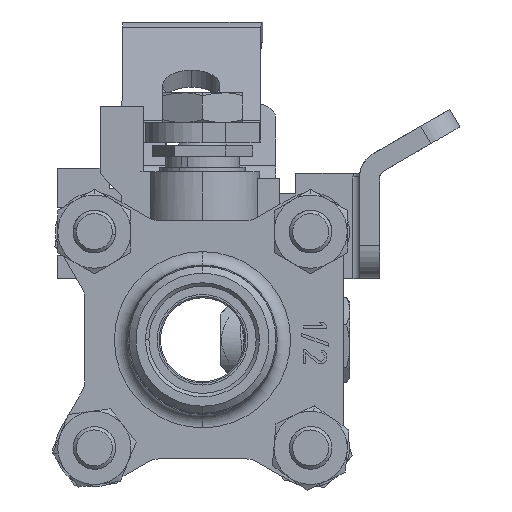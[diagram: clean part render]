
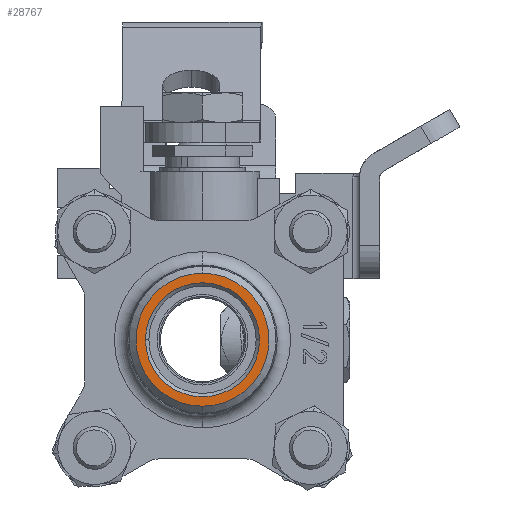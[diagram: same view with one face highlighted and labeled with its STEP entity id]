
A CAD part, left-side view. The second image highlights one B-rep face of the part: STEP entity #28767.
In plain terms, the highlighted planar face has unit normal (-1, 0, 0).
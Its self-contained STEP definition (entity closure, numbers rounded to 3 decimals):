
#21450 = CONICAL_SURFACE('',#21451,8.49,0.785);
#21451 = AXIS2_PLACEMENT_3D('',#21452,#21453,#21454);
#21452 = CARTESIAN_POINT('',(20.379,16.421,
    -20.008));
#21453 = DIRECTION('',(-1.,0.,0.));
#21454 = DIRECTION('',(0.,1.,0.));
#21549 = CONICAL_SURFACE('',#21550,8.49,0.785);
#21550 = AXIS2_PLACEMENT_3D('',#21551,#21552,#21553);
#21551 = CARTESIAN_POINT('',(20.379,16.421,
    -20.008));
#21552 = DIRECTION('',(-1.,0.,0.));
#21553 = DIRECTION('',(0.,1.,0.));
#21586 = VERTEX_POINT('',#21587);
#21587 = CARTESIAN_POINT('',(20.379,24.911,
    -20.008));
#21606 = EDGE_CURVE('',#21586,#21607,#21609,.T.);
#21607 = VERTEX_POINT('',#21608);
#21608 = CARTESIAN_POINT('',(20.379,7.931,
    -20.008));
#21609 = SURFACE_CURVE('',#21610,(#21615,#21621),.PCURVE_S1.);
#21610 = CIRCLE('',#21611,8.49);
#21611 = AXIS2_PLACEMENT_3D('',#21612,#21613,#21614);
#21612 = CARTESIAN_POINT('',(20.379,16.421,
    -20.008));
#21613 = DIRECTION('',(1.,0.,0.));
#21614 = DIRECTION('',(0.,1.,0.));
#21615 = PCURVE('',#21450,#21616);
#21616 = DEFINITIONAL_REPRESENTATION('',(#21617),#21620);
#21617 = B_SPLINE_CURVE_WITH_KNOTS('',1,(#21618,#21619),.UNSPECIFIED.,
  .F.,.F.,(2,2),(0.,3.142),.PIECEWISE_BEZIER_KNOTS.);
#21618 = CARTESIAN_POINT('',(6.283,0.));
#21619 = CARTESIAN_POINT('',(3.142,0.));
#21620 = ( GEOMETRIC_REPRESENTATION_CONTEXT(2) 
PARAMETRIC_REPRESENTATION_CONTEXT() REPRESENTATION_CONTEXT('2D SPACE',''
  ) );
#21621 = PCURVE('',#21622,#21627);
#21622 = PLANE('',#21623);
#21623 = AXIS2_PLACEMENT_3D('',#21624,#21625,#21626);
#21624 = CARTESIAN_POINT('',(20.379,16.421,
    -20.008));
#21625 = DIRECTION('',(-1.,0.,0.));
#21626 = DIRECTION('',(-0.,0.,-1.));
#21627 = DEFINITIONAL_REPRESENTATION('',(#21628),#21636);
#21628 = ( BOUNDED_CURVE() B_SPLINE_CURVE(2,(#21629,#21630,#21631,#21632
    ,#21633,#21634,#21635),.UNSPECIFIED.,.T.,.F.) 
B_SPLINE_CURVE_WITH_KNOTS((1,2,2,2,2,1),(-2.094,0.,
    2.094,4.189,6.283,8.378),
.UNSPECIFIED.) CURVE() GEOMETRIC_REPRESENTATION_ITEM() 
RATIONAL_B_SPLINE_CURVE((1.,0.5,1.,0.5,1.,0.5,1.)) REPRESENTATION_ITEM(
  '') );
#21629 = CARTESIAN_POINT('',(0.,-8.49));
#21630 = CARTESIAN_POINT('',(-14.705,-8.49));
#21631 = CARTESIAN_POINT('',(-7.353,4.245));
#21632 = CARTESIAN_POINT('',(0.,16.98));
#21633 = CARTESIAN_POINT('',(7.353,4.245));
#21634 = CARTESIAN_POINT('',(14.705,-8.49));
#21635 = CARTESIAN_POINT('',(0.,-8.49));
#21636 = ( GEOMETRIC_REPRESENTATION_CONTEXT(2) 
PARAMETRIC_REPRESENTATION_CONTEXT() REPRESENTATION_CONTEXT('2D SPACE',''
  ) );
#21661 = EDGE_CURVE('',#21662,#21664,#21666,.T.);
#21662 = VERTEX_POINT('',#21663);
#21663 = CARTESIAN_POINT('',(20.379,16.421,
    -29.908));
#21664 = VERTEX_POINT('',#21665);
#21665 = CARTESIAN_POINT('',(20.379,16.421,
    -10.108));
#21666 = SURFACE_CURVE('',#21667,(#21672,#21683),.PCURVE_S1.);
#21667 = CIRCLE('',#21668,9.9);
#21668 = AXIS2_PLACEMENT_3D('',#21669,#21670,#21671);
#21669 = CARTESIAN_POINT('',(20.379,16.421,
    -20.008));
#21670 = DIRECTION('',(-1.,0.,0.));
#21671 = DIRECTION('',(0.,0.,1.));
#21672 = PCURVE('',#21673,#21678);
#21673 = CONICAL_SURFACE('',#21674,10.935,0.803);
#21674 = AXIS2_PLACEMENT_3D('',#21675,#21676,#21677);
#21675 = CARTESIAN_POINT('',(21.378,16.421,
    -20.008));
#21676 = DIRECTION('',(1.,0.,0.));
#21677 = DIRECTION('',(0.,0.,1.));
#21678 = DEFINITIONAL_REPRESENTATION('',(#21679),#21682);
#21679 = B_SPLINE_CURVE_WITH_KNOTS('',1,(#21680,#21681),.UNSPECIFIED.,
  .F.,.F.,(2,2),(3.142,6.283),.PIECEWISE_BEZIER_KNOTS.);
#21680 = CARTESIAN_POINT('',(3.142,-0.999));
#21681 = CARTESIAN_POINT('',(0.,-0.999));
#21682 = ( GEOMETRIC_REPRESENTATION_CONTEXT(2) 
PARAMETRIC_REPRESENTATION_CONTEXT() REPRESENTATION_CONTEXT('2D SPACE',''
  ) );
#21683 = PCURVE('',#21622,#21684);
#21684 = DEFINITIONAL_REPRESENTATION('',(#21685),#21689);
#21685 = CIRCLE('',#21686,9.9);
#21686 = AXIS2_PLACEMENT_2D('',#21687,#21688);
#21687 = CARTESIAN_POINT('',(0.,0.));
#21688 = DIRECTION('',(-1.,0.));
#21689 = ( GEOMETRIC_REPRESENTATION_CONTEXT(2) 
PARAMETRIC_REPRESENTATION_CONTEXT() REPRESENTATION_CONTEXT('2D SPACE',''
  ) );
#21706 = CONICAL_SURFACE('',#21707,10.935,0.803);
#21707 = AXIS2_PLACEMENT_3D('',#21708,#21709,#21710);
#21708 = CARTESIAN_POINT('',(21.378,16.421,
    -20.008));
#21709 = DIRECTION('',(1.,0.,0.));
#21710 = DIRECTION('',(0.,0.,1.));
#28735 = EDGE_CURVE('',#21664,#21662,#28736,.T.);
#28736 = SURFACE_CURVE('',#28737,(#28742,#28748),.PCURVE_S1.);
#28737 = CIRCLE('',#28738,9.9);
#28738 = AXIS2_PLACEMENT_3D('',#28739,#28740,#28741);
#28739 = CARTESIAN_POINT('',(20.379,16.421,
    -20.008));
#28740 = DIRECTION('',(-1.,0.,0.));
#28741 = DIRECTION('',(0.,0.,1.));
#28742 = PCURVE('',#21706,#28743);
#28743 = DEFINITIONAL_REPRESENTATION('',(#28744),#28747);
#28744 = B_SPLINE_CURVE_WITH_KNOTS('',1,(#28745,#28746),.UNSPECIFIED.,
  .F.,.F.,(2,2),(0.,3.142),.PIECEWISE_BEZIER_KNOTS.);
#28745 = CARTESIAN_POINT('',(6.283,-0.999));
#28746 = CARTESIAN_POINT('',(3.142,-0.999));
#28747 = ( GEOMETRIC_REPRESENTATION_CONTEXT(2) 
PARAMETRIC_REPRESENTATION_CONTEXT() REPRESENTATION_CONTEXT('2D SPACE',''
  ) );
#28748 = PCURVE('',#21622,#28749);
#28749 = DEFINITIONAL_REPRESENTATION('',(#28750),#28754);
#28750 = CIRCLE('',#28751,9.9);
#28751 = AXIS2_PLACEMENT_2D('',#28752,#28753);
#28752 = CARTESIAN_POINT('',(0.,0.));
#28753 = DIRECTION('',(-1.,0.));
#28754 = ( GEOMETRIC_REPRESENTATION_CONTEXT(2) 
PARAMETRIC_REPRESENTATION_CONTEXT() REPRESENTATION_CONTEXT('2D SPACE',''
  ) );
#28767 = ADVANCED_FACE('',(#28768,#28772),#21622,.T.);
#28768 = FACE_BOUND('',#28769,.T.);
#28769 = EDGE_LOOP('',(#28770,#28771));
#28770 = ORIENTED_EDGE('',*,*,#28735,.T.);
#28771 = ORIENTED_EDGE('',*,*,#21661,.T.);
#28772 = FACE_BOUND('',#28773,.T.);
#28773 = EDGE_LOOP('',(#28774,#28775));
#28774 = ORIENTED_EDGE('',*,*,#21606,.T.);
#28775 = ORIENTED_EDGE('',*,*,#28776,.T.);
#28776 = EDGE_CURVE('',#21607,#21586,#28777,.T.);
#28777 = SURFACE_CURVE('',#28778,(#28783,#28794),.PCURVE_S1.);
#28778 = CIRCLE('',#28779,8.49);
#28779 = AXIS2_PLACEMENT_3D('',#28780,#28781,#28782);
#28780 = CARTESIAN_POINT('',(20.379,16.421,
    -20.008));
#28781 = DIRECTION('',(1.,0.,0.));
#28782 = DIRECTION('',(0.,1.,0.));
#28783 = PCURVE('',#21622,#28784);
#28784 = DEFINITIONAL_REPRESENTATION('',(#28785),#28793);
#28785 = ( BOUNDED_CURVE() B_SPLINE_CURVE(2,(#28786,#28787,#28788,#28789
    ,#28790,#28791,#28792),.UNSPECIFIED.,.T.,.F.) 
B_SPLINE_CURVE_WITH_KNOTS((1,2,2,2,2,1),(-2.094,0.,
    2.094,4.189,6.283,8.378),
.UNSPECIFIED.) CURVE() GEOMETRIC_REPRESENTATION_ITEM() 
RATIONAL_B_SPLINE_CURVE((1.,0.5,1.,0.5,1.,0.5,1.)) REPRESENTATION_ITEM(
  '') );
#28786 = CARTESIAN_POINT('',(0.,-8.49));
#28787 = CARTESIAN_POINT('',(-14.705,-8.49));
#28788 = CARTESIAN_POINT('',(-7.353,4.245));
#28789 = CARTESIAN_POINT('',(0.,16.98));
#28790 = CARTESIAN_POINT('',(7.353,4.245));
#28791 = CARTESIAN_POINT('',(14.705,-8.49));
#28792 = CARTESIAN_POINT('',(0.,-8.49));
#28793 = ( GEOMETRIC_REPRESENTATION_CONTEXT(2) 
PARAMETRIC_REPRESENTATION_CONTEXT() REPRESENTATION_CONTEXT('2D SPACE',''
  ) );
#28794 = PCURVE('',#21549,#28795);
#28795 = DEFINITIONAL_REPRESENTATION('',(#28796),#28799);
#28796 = B_SPLINE_CURVE_WITH_KNOTS('',1,(#28797,#28798),.UNSPECIFIED.,
  .F.,.F.,(2,2),(3.142,6.283),.PIECEWISE_BEZIER_KNOTS.);
#28797 = CARTESIAN_POINT('',(3.142,0.));
#28798 = CARTESIAN_POINT('',(0.,0.));
#28799 = ( GEOMETRIC_REPRESENTATION_CONTEXT(2) 
PARAMETRIC_REPRESENTATION_CONTEXT() REPRESENTATION_CONTEXT('2D SPACE',''
  ) );
